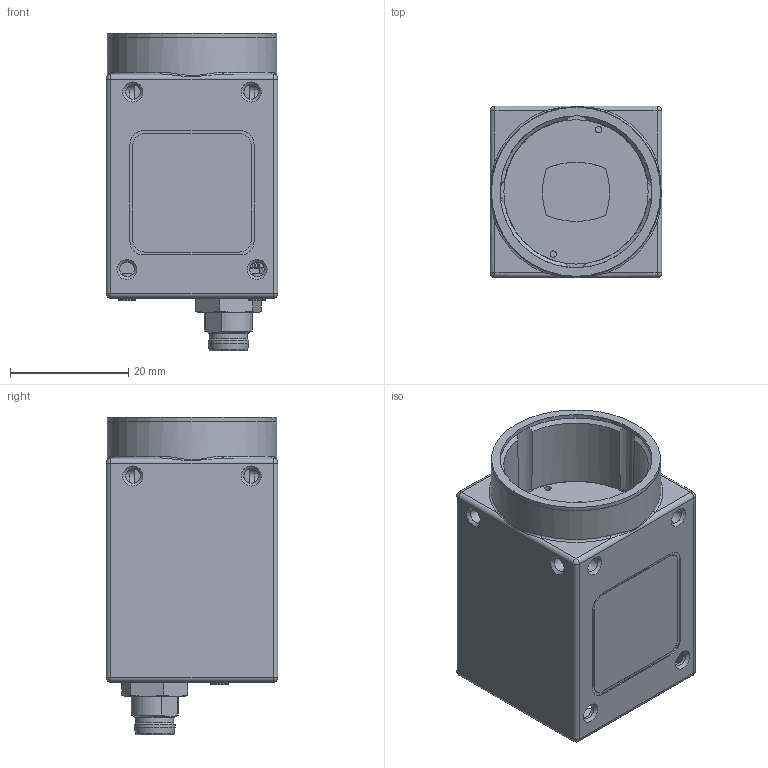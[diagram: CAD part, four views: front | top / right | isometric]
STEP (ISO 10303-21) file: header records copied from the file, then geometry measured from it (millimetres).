
FILE_DESCRIPTION( ( 'Unknown' ), '1' );
FILE_NAME( 'C:/Users/rih/Desktop/CAD-MarCom/11165907_VCXU-13C.stp', '14.10.2014', ( 'Unknown' ), ( 'Unknown' ), 'PSStep 15.0.49', 'Unknown', ' ' );
FILE_SCHEMA( ( 'AUTOMOTIVE_DESIGN { 1 0 10303 214 1 1 1 1 }' ) );
Length unit declared in the file: millimetre
Products named in the file (3): 11104603
Bounding box: 29 x 29 x 53.7 mm (x, y, z)
Volume: 10617 mm3; surface area: 15608.7 mm2
Topology: 3 solids, 9 shells, 1909 faces, 5333 edges, 3468 vertices
Faces by surface type: plane 1289, cylinder 470, cone 71, torus 27, sphere 24, bspline 24, extrusion 4
Full cylindrical faces by diameter (mm): 0.217 x1, 0.6 x16, 0.7 x1, 0.9 x1, 1.1 x2, 1.4 x4, 1.567 x2, 1.6 x2, 1.9 x4, 2.459 x10, 3 x4, 6.5 x1, 6.9 x1, 8.4 x1, 9 x1, 9.4 x1, 19 x1, 24.4 x1, 25.7 x1, 26 x1, 28.6 x1, 28.7 x1
Entity records: 91068 total; most frequent: CARTESIAN_POINT 14846, ORIENTED_EDGE 10224, DIRECTION 9663, EDGE_CURVE 5112, PRESENTATION_STYLE_ASSIGNMENT 4576, COLOUR_RGB 4576, STYLED_ITEM 3808, VECTOR 3693
